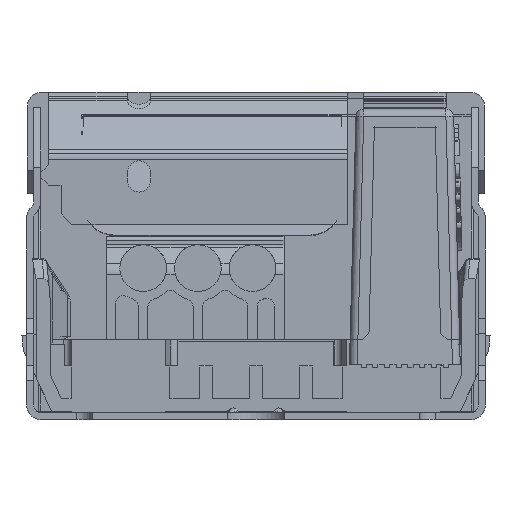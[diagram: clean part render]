
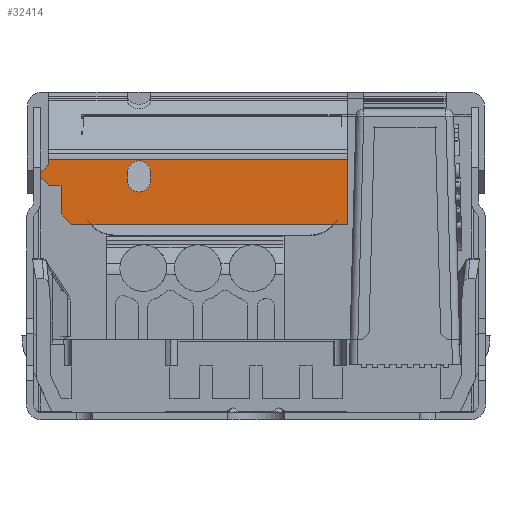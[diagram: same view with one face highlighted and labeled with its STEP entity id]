
A CAD part, left-side view. The second image highlights one B-rep face of the part: STEP entity #32414.
In plain terms, the highlighted planar face has unit normal (-1, 0, 0).
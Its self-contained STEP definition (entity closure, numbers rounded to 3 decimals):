
#373 = DIRECTION ( 'NONE',  ( 1., 0., 0. ) ) ;
#960 = LINE ( 'NONE', #15287, #37343 ) ;
#1040 = ORIENTED_EDGE ( 'NONE', *, *, #23185, .T. ) ;
#1190 = VECTOR ( 'NONE', #20917, 1000. ) ;
#1343 = VERTEX_POINT ( 'NONE', #30221 ) ;
#1378 = CARTESIAN_POINT ( 'NONE',  ( -113.999, 7.5, 15.851 ) ) ;
#1698 = AXIS2_PLACEMENT_3D ( 'NONE', #24844, #25047, #43110 ) ;
#1913 = EDGE_LOOP ( 'NONE', ( #5764, #16993, #25223, #37373, #38762, #43084, #1040, #35550, #34041, #46365 ) ) ;
#3058 = EDGE_LOOP ( 'NONE', ( #32320, #5676, #40001, #45531, #37407 ) ) ;
#3292 = VERTEX_POINT ( 'NONE', #22991 ) ;
#3320 = LINE ( 'NONE', #24422, #1190 ) ;
#3619 = VECTOR ( 'NONE', #44945, 1000. ) ;
#3868 = CARTESIAN_POINT ( 'NONE',  ( -113.999, 8.25, 15.351 ) ) ;
#4146 = VERTEX_POINT ( 'NONE', #27953 ) ;
#5676 = ORIENTED_EDGE ( 'NONE', *, *, #22224, .T. ) ;
#5764 = ORIENTED_EDGE ( 'NONE', *, *, #42187, .T. ) ;
#6147 = DIRECTION ( 'NONE',  ( 0., 0., -1. ) ) ;
#6362 = VECTOR ( 'NONE', #6147, 1000. ) ;
#7174 = CARTESIAN_POINT ( 'NONE',  ( -113.999, 7.5, 15.351 ) ) ;
#8508 = CARTESIAN_POINT ( 'NONE',  ( -113.999, -5.89, 16.706 ) ) ;
#8947 = CIRCLE ( 'NONE', #12702, 0.75 ) ;
#9442 = DIRECTION ( 'NONE',  ( 0., 0., -1. ) ) ;
#9883 = AXIS2_PLACEMENT_3D ( 'NONE', #1378, #30006, #43825 ) ;
#9908 = VERTEX_POINT ( 'NONE', #18966 ) ;
#10181 = VERTEX_POINT ( 'NONE', #40229 ) ;
#10544 = PLANE ( 'NONE',  #1698 ) ;
#12458 = DIRECTION ( 'NONE',  ( 0., 1., 0. ) ) ;
#12702 = AXIS2_PLACEMENT_3D ( 'NONE', #17486, #31556, #31782 ) ;
#12800 = VERTEX_POINT ( 'NONE', #3868 ) ;
#13279 = CARTESIAN_POINT ( 'NONE',  ( -113.999, 13.3, 16.351 ) ) ;
#13522 = EDGE_CURVE ( 'NONE', #28902, #10181, #40970, .T. ) ;
#13526 = DIRECTION ( 'NONE',  ( 0., -1., 0. ) ) ;
#14762 = FACE_BOUND ( 'NONE', #3058, .T. ) ;
#15145 = LINE ( 'NONE', #32030, #41303 ) ;
#15287 = CARTESIAN_POINT ( 'NONE',  ( -113.999, -14.65, 16.706 ) ) ;
#15667 = AXIS2_PLACEMENT_3D ( 'NONE', #7174, #373, #36752 ) ;
#15870 = CARTESIAN_POINT ( 'NONE',  ( -113.999, 12.5, 241.811 ) ) ;
#16175 = CARTESIAN_POINT ( 'NONE',  ( -113.999, 12.5, 13.201 ) ) ;
#16926 = VERTEX_POINT ( 'NONE', #40797 ) ;
#16993 = ORIENTED_EDGE ( 'NONE', *, *, #37545, .T. ) ;
#17074 = CARTESIAN_POINT ( 'NONE',  ( -113.999, 6.75, 241.811 ) ) ;
#17344 = VECTOR ( 'NONE', #23050, 1000. ) ;
#17486 = CARTESIAN_POINT ( 'NONE',  ( -113.999, 7.5, 15.851 ) ) ;
#17626 = VERTEX_POINT ( 'NONE', #23276 ) ;
#18110 = CARTESIAN_POINT ( 'NONE',  ( -113.999, 6.75, 15.351 ) ) ;
#18523 = VERTEX_POINT ( 'NONE', #32847 ) ;
#18966 = CARTESIAN_POINT ( 'NONE',  ( -113.999, 13.3, 16.706 ) ) ;
#18982 = EDGE_CURVE ( 'NONE', #1343, #42932, #24304, .T. ) ;
#19421 = CARTESIAN_POINT ( 'NONE',  ( -113.999, 12.5, 13.201 ) ) ;
#20384 = EDGE_CURVE ( 'NONE', #18523, #16926, #8947, .T. ) ;
#20540 = DIRECTION ( 'NONE',  ( 0., 0.707, -0.707 ) ) ;
#20917 = DIRECTION ( 'NONE',  ( 0., 0., -1. ) ) ;
#21164 = CARTESIAN_POINT ( 'NONE',  ( -113.999, 12.5, 15.051 ) ) ;
#21910 = CARTESIAN_POINT ( 'NONE',  ( -113.999, 13.3, 241.811 ) ) ;
#22224 = EDGE_CURVE ( 'NONE', #12800, #18523, #41783, .T. ) ;
#22357 = LINE ( 'NONE', #29627, #36548 ) ;
#22991 = CARTESIAN_POINT ( 'NONE',  ( -113.999, 13.3, 16.351 ) ) ;
#23050 = DIRECTION ( 'NONE',  ( 0., 0., 1. ) ) ;
#23185 = EDGE_CURVE ( 'NONE', #42010, #28902, #27242, .T. ) ;
#23276 = CARTESIAN_POINT ( 'NONE',  ( -113.999, -5.89, 12.501 ) ) ;
#23356 = EDGE_CURVE ( 'NONE', #42408, #4146, #3320, .T. ) ;
#24304 = LINE ( 'NONE', #17074, #41304 ) ;
#24422 = CARTESIAN_POINT ( 'NONE',  ( -113.999, 13.8, 13.5 ) ) ;
#24844 = CARTESIAN_POINT ( 'NONE',  ( -113.999, -14.65, 241.811 ) ) ;
#25047 = DIRECTION ( 'NONE',  ( -1., 0., 0. ) ) ;
#25181 = DIRECTION ( 'NONE',  ( 0., 0., 1. ) ) ;
#25223 = ORIENTED_EDGE ( 'NONE', *, *, #34017, .T. ) ;
#27242 = LINE ( 'NONE', #15870, #6362 ) ;
#27462 = CARTESIAN_POINT ( 'NONE',  ( -113.999, 8.25, 241.811 ) ) ;
#27573 = LINE ( 'NONE', #41897, #39126 ) ;
#27953 = CARTESIAN_POINT ( 'NONE',  ( -113.999, 13.8, 15.551 ) ) ;
#28902 = VERTEX_POINT ( 'NONE', #16175 ) ;
#28937 = LINE ( 'NONE', #21910, #40962 ) ;
#29281 = VERTEX_POINT ( 'NONE', #42334 ) ;
#29434 = EDGE_CURVE ( 'NONE', #17626, #39071, #15145, .T. ) ;
#29627 = CARTESIAN_POINT ( 'NONE',  ( -113.999, 13.8, 15.551 ) ) ;
#30006 = DIRECTION ( 'NONE',  ( 1., 0., 0. ) ) ;
#30221 = CARTESIAN_POINT ( 'NONE',  ( -113.999, 6.75, 15.851 ) ) ;
#30484 = EDGE_CURVE ( 'NONE', #29281, #42010, #27573, .T. ) ;
#31469 = VECTOR ( 'NONE', #20540, 1000. ) ;
#31556 = DIRECTION ( 'NONE',  ( 1., 0., 0. ) ) ;
#31685 = FACE_OUTER_BOUND ( 'NONE', #1913, .T. ) ;
#31782 = DIRECTION ( 'NONE',  ( 0., 0., 1. ) ) ;
#31795 = EDGE_CURVE ( 'NONE', #10181, #17626, #42844, .T. ) ;
#32030 = CARTESIAN_POINT ( 'NONE',  ( -113.999, -5.89, 241.811 ) ) ;
#32293 = CARTESIAN_POINT ( 'NONE',  ( -113.999, -14.65, 12.501 ) ) ;
#32320 = ORIENTED_EDGE ( 'NONE', *, *, #42387, .T. ) ;
#32414 = ADVANCED_FACE ( 'NONE', ( #31685, #14762 ), #10544, .T. ) ;
#32847 = CARTESIAN_POINT ( 'NONE',  ( -113.999, 8.25, 15.851 ) ) ;
#34017 = EDGE_CURVE ( 'NONE', #3292, #42408, #37899, .T. ) ;
#34041 = ORIENTED_EDGE ( 'NONE', *, *, #31795, .T. ) ;
#35352 = CIRCLE ( 'NONE', #9883, 0.75 ) ;
#35550 = ORIENTED_EDGE ( 'NONE', *, *, #13522, .T. ) ;
#35587 = DIRECTION ( 'NONE',  ( 0., -1., 0. ) ) ;
#35812 = CARTESIAN_POINT ( 'NONE',  ( -113.999, 13.8, 15.851 ) ) ;
#35858 = CIRCLE ( 'NONE', #15667, 0.75 ) ;
#36548 = VECTOR ( 'NONE', #43932, 1000. ) ;
#36752 = DIRECTION ( 'NONE',  ( 0., 0., 1. ) ) ;
#37343 = VECTOR ( 'NONE', #12458, 1000. ) ;
#37373 = ORIENTED_EDGE ( 'NONE', *, *, #23356, .T. ) ;
#37407 = ORIENTED_EDGE ( 'NONE', *, *, #18982, .T. ) ;
#37545 = EDGE_CURVE ( 'NONE', #9908, #3292, #28937, .T. ) ;
#37899 = LINE ( 'NONE', #13279, #31469 ) ;
#38612 = DIRECTION ( 'NONE',  ( 0., 0., -1. ) ) ;
#38762 = ORIENTED_EDGE ( 'NONE', *, *, #40058, .T. ) ;
#39071 = VERTEX_POINT ( 'NONE', #8508 ) ;
#39126 = VECTOR ( 'NONE', #13526, 1000. ) ;
#40001 = ORIENTED_EDGE ( 'NONE', *, *, #20384, .T. ) ;
#40058 = EDGE_CURVE ( 'NONE', #4146, #29281, #22357, .T. ) ;
#40229 = CARTESIAN_POINT ( 'NONE',  ( -113.999, 11.8, 12.501 ) ) ;
#40797 = CARTESIAN_POINT ( 'NONE',  ( -113.999, 7.5, 16.601 ) ) ;
#40962 = VECTOR ( 'NONE', #9442, 1000. ) ;
#40970 = LINE ( 'NONE', #19421, #3619 ) ;
#41303 = VECTOR ( 'NONE', #25181, 1000. ) ;
#41304 = VECTOR ( 'NONE', #38612, 1000. ) ;
#41783 = LINE ( 'NONE', #27462, #17344 ) ;
#41897 = CARTESIAN_POINT ( 'NONE',  ( -113.999, -14.65, 15.051 ) ) ;
#42010 = VERTEX_POINT ( 'NONE', #21164 ) ;
#42187 = EDGE_CURVE ( 'NONE', #39071, #9908, #960, .T. ) ;
#42334 = CARTESIAN_POINT ( 'NONE',  ( -113.999, 13.3, 15.051 ) ) ;
#42387 = EDGE_CURVE ( 'NONE', #42932, #12800, #35858, .T. ) ;
#42408 = VERTEX_POINT ( 'NONE', #35812 ) ;
#42844 = LINE ( 'NONE', #32293, #42859 ) ;
#42859 = VECTOR ( 'NONE', #35587, 1000. ) ;
#42932 = VERTEX_POINT ( 'NONE', #18110 ) ;
#43084 = ORIENTED_EDGE ( 'NONE', *, *, #30484, .T. ) ;
#43110 = DIRECTION ( 'NONE',  ( 0., 0., 1. ) ) ;
#43825 = DIRECTION ( 'NONE',  ( 0., 0., 1. ) ) ;
#43932 = DIRECTION ( 'NONE',  ( 0., -0.707, -0.707 ) ) ;
#44945 = DIRECTION ( 'NONE',  ( 0., -0.707, -0.707 ) ) ;
#45531 = ORIENTED_EDGE ( 'NONE', *, *, #45748, .T. ) ;
#45748 = EDGE_CURVE ( 'NONE', #16926, #1343, #35352, .T. ) ;
#46365 = ORIENTED_EDGE ( 'NONE', *, *, #29434, .T. ) ;
